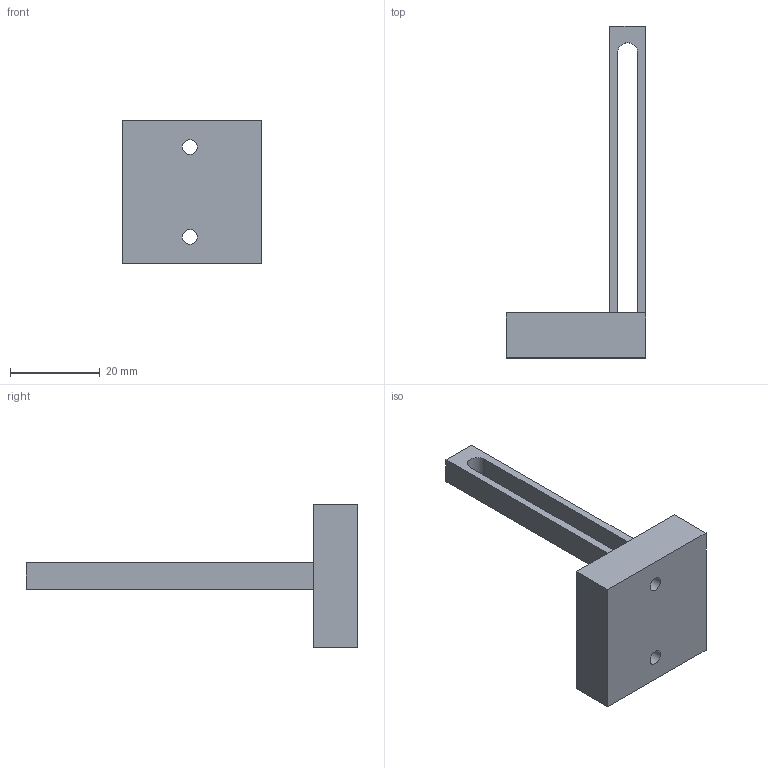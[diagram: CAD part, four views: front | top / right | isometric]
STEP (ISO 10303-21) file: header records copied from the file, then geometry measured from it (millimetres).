
FILE_DESCRIPTION(('Open CASCADE Model'),'2;1');
FILE_NAME('Open CASCADE Shape Model','2026-11-08T05:54:15',('Author'),( 'Open CASCADE'),'Open CASCADE STEP processor 7.8','Open CASCADE 7.8' ,'Unknown');
FILE_SCHEMA(('AUTOMOTIVE_DESIGN { 1 0 10303 214 1 1 1 1 }'));
Length unit declared in the file: millimetre
Products named in the file (1): Open CASCADE STEP translator 7.8 6
Bounding box: 31 x 74 x 32 mm (x, y, z)
Volume: 11071.6 mm3; surface area: 5523.1 mm2
Topology: 1 solids, 1 shells, 18 faces, 54 edges, 36 vertices
Faces by surface type: plane 14, cylinder 4
Full cylindrical faces by diameter (mm): 3.3 x2
Entity records: 1298 total; most frequent: CARTESIAN_POINT 249, DIRECTION 176, LINE 114, VECTOR 114, ORIENTED_EDGE 108, PCURVE 108, DEFINITIONAL_REPRESENTATION 108, EDGE_CURVE 54
